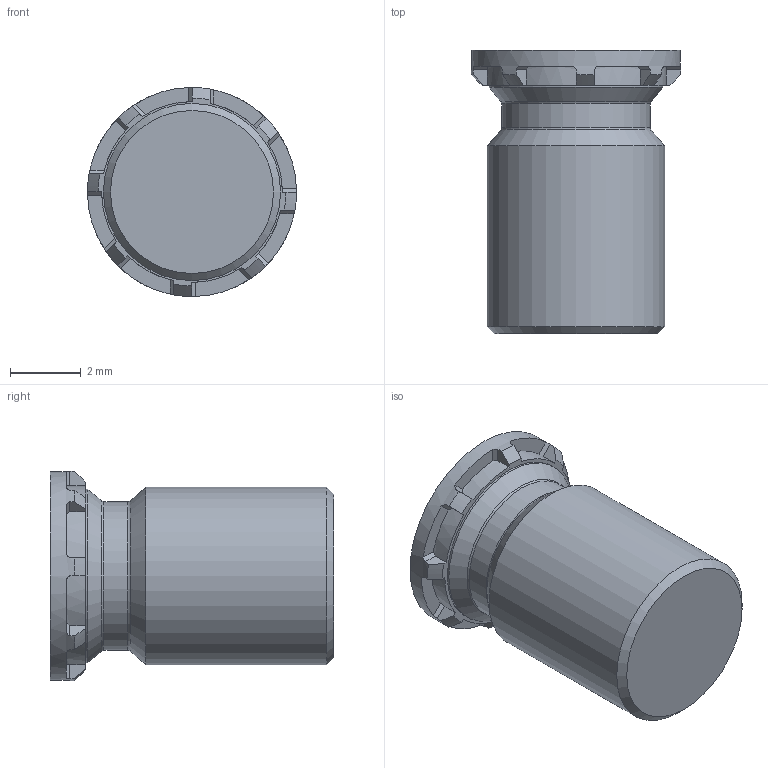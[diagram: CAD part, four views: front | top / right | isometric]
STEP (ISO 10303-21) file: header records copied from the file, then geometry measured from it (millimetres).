
FILE_DESCRIPTION(/* description */ (''),/* implementation_level */ '2;1');
FILE_NAME(/* name */ 'C:\Users\keval.kumar\Desktop\Fastit\Clinch Screw- Reduced FH Range\M5\Clinch Screw-Reduced FH Range_M5x8.stp',/* time_stamp */ '2024-03-12T14:08:30+06:00',/* author */ ('keval.kumar'),/* organization */ (''),/* preprocessor_version */ 'ST-DEVELOPER v18.1',/* originating_system */ 'Autodesk Inventor 2022',/* authorisation */ '');
FILE_SCHEMA (('AUTOMOTIVE_DESIGN { 1 0 10303 214 3 1 1 }'));
Length unit declared in the file: millimetre
Products named in the file (1): Clinch Screw-Reduced FH Range_M5x8
Bounding box: 5.9 x 8 x 5.9 mm (x, y, z)
Volume: 154.2 mm3; surface area: 183.1 mm2
Topology: 1 solids, 1 shells, 68 faces, 193 edges, 128 vertices
Faces by surface type: plane 43, cylinder 12, cone 11, torus 2
Full cylindrical faces by diameter (mm): 4.2 x1, 4.9 x1, 5 x1, 5.9 x1
Entity records: 2286 total; most frequent: DIRECTION 413, CARTESIAN_POINT 406, ORIENTED_EDGE 386, EDGE_CURVE 193, AXIS2_PLACEMENT_3D 159, VERTEX_POINT 128, LINE 95, VECTOR 95
